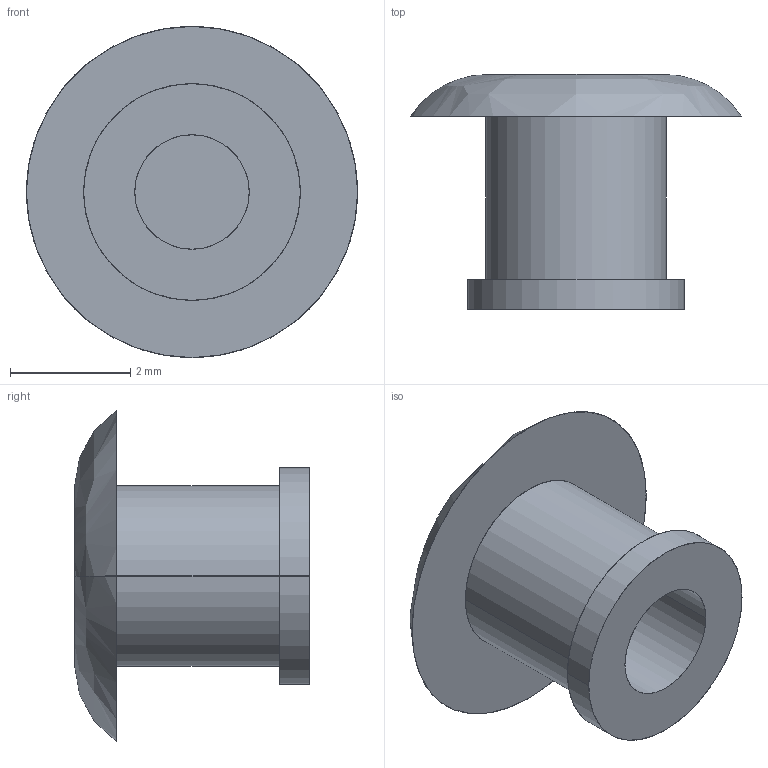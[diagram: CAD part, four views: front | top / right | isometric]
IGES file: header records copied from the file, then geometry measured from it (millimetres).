
Start section: SolidWorks IGES FILE using analytic representation for surfaces
Global section: file name: C:\Documents and Settings\lecoutey\Bureau\PR 302\303.300.00.IGS; native system: SolidWorks 2004 by SolidWorks Corporation; preprocessor: Version 5.3; author: lecoutey; date: 050408.142210; units: millimetre
Bounding box: 5.5 x 3.9 x 5.5 mm (x, y, z)
Surface area: 103 mm2 (no closed solid volume)
Topology: 0 solids, 0 shells, 13 faces, 288 edges, 288 vertices
Faces by surface type: bspline 7, revolution 6
